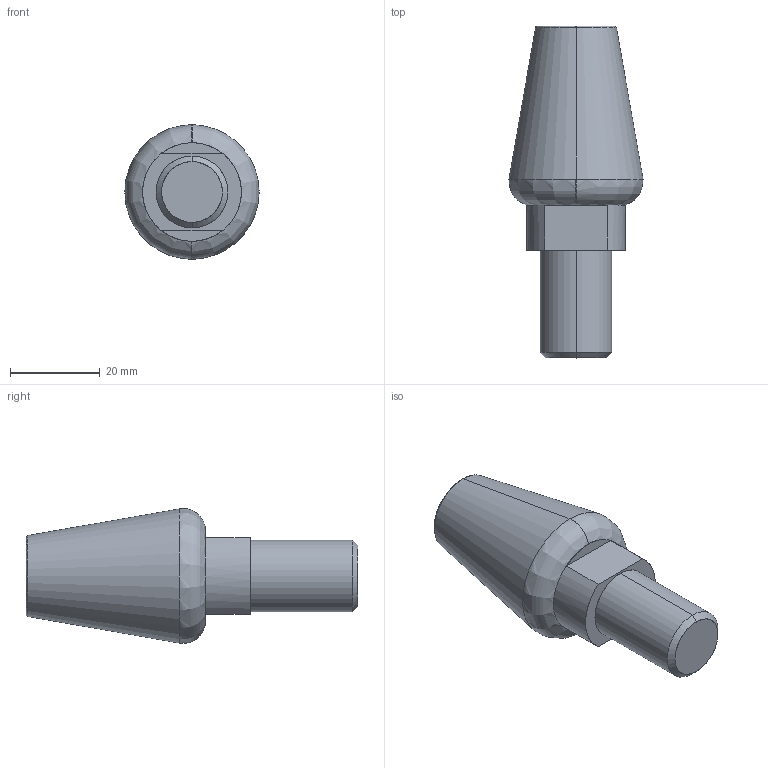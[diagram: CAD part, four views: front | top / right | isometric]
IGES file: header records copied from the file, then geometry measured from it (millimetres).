
Start section: START RECORD GO HERE.
Global section: file name: 384F-2_1.igs; native system: DASSAULT SYSTEMES CATIA V5 R20 - www.3ds.com; preprocessor: CATIA Version 5 Release 20 ; author: Utente; organization: NB04-ASUS; date: 20200409.082159; units: millimetre
Bounding box: 29.93 x 74 x 30.08 mm (x, y, z)
Surface area: 5902 mm2 (no closed solid volume)
Topology: 0 solids, 0 shells, 33 faces, 148 edges, 146 vertices
Faces by surface type: extrusion 19, revolution 14
